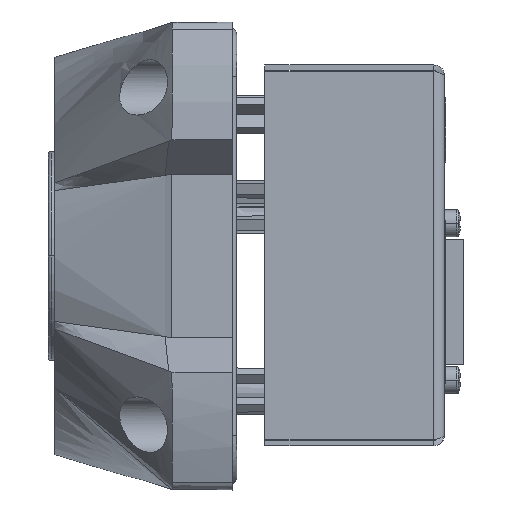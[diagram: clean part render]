
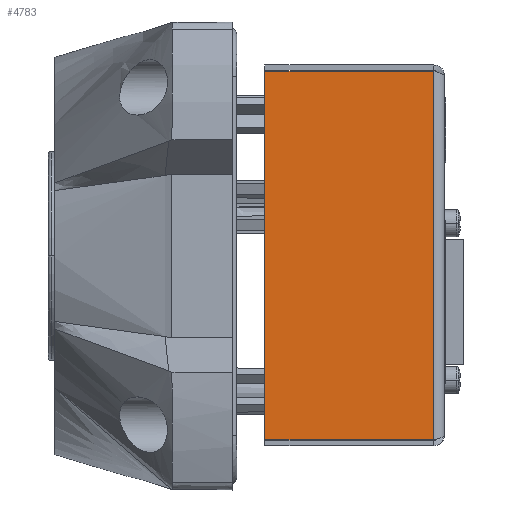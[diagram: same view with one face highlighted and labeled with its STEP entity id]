
A CAD part, left-side view. The second image highlights one B-rep face of the part: STEP entity #4783.
In plain terms, the highlighted planar face has unit normal (-1, 0, 0).
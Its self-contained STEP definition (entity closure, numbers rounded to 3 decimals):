
#148 = LINE ( 'NONE', #19914, #11269 ) ;
#416 = ORIENTED_EDGE ( 'NONE', *, *, #21659, .T. ) ;
#1772 = CARTESIAN_POINT ( 'NONE',  ( -39.75, -18.6, -33.755 ) ) ;
#1985 = VERTEX_POINT ( 'NONE', #5362 ) ;
#3797 = VECTOR ( 'NONE', #11076, 1000. ) ;
#4783 = ADVANCED_FACE ( 'NONE', ( #29949 ), #6434, .F. ) ;
#5090 = ORIENTED_EDGE ( 'NONE', *, *, #10970, .F. ) ;
#5362 = CARTESIAN_POINT ( 'NONE',  ( -39.75, -49.6, -33.755 ) ) ;
#5526 = LINE ( 'NONE', #25958, #19818 ) ;
#6434 = PLANE ( 'NONE',  #31175 ) ;
#8286 = DIRECTION ( 'NONE',  ( 0., 1., 0. ) ) ;
#8717 = ORIENTED_EDGE ( 'NONE', *, *, #23789, .F. ) ;
#9394 = CARTESIAN_POINT ( 'NONE',  ( -39.75, -51.6, 0.104 ) ) ;
#9930 = VERTEX_POINT ( 'NONE', #10803 ) ;
#10724 = CARTESIAN_POINT ( 'NONE',  ( -39.75, -49.6, 33.962 ) ) ;
#10803 = CARTESIAN_POINT ( 'NONE',  ( -39.75, -18.6, 33.962 ) ) ;
#10970 = EDGE_CURVE ( 'NONE', #1985, #13110, #5526, .T. ) ;
#11076 = DIRECTION ( 'NONE',  ( 0., 0., -1. ) ) ;
#11269 = VECTOR ( 'NONE', #8286, 1000. ) ;
#11698 = DIRECTION ( 'NONE',  ( 0., 1., 0. ) ) ;
#13110 = VERTEX_POINT ( 'NONE', #1772 ) ;
#13703 = VECTOR ( 'NONE', #24493, 1000. ) ;
#15395 = DIRECTION ( 'NONE',  ( 1., 0., 0. ) ) ;
#15990 = CARTESIAN_POINT ( 'NONE',  ( -39.75, -18.6, -34.896 ) ) ;
#18966 = LINE ( 'NONE', #31095, #3797 ) ;
#19818 = VECTOR ( 'NONE', #11698, 1000. ) ;
#19914 = CARTESIAN_POINT ( 'NONE',  ( -39.75, -51.6, 33.962 ) ) ;
#20642 = VERTEX_POINT ( 'NONE', #10724 ) ;
#21659 = EDGE_CURVE ( 'NONE', #20642, #9930, #148, .T. ) ;
#23789 = EDGE_CURVE ( 'NONE', #20642, #1985, #18966, .T. ) ;
#24493 = DIRECTION ( 'NONE',  ( 0., 0., 1. ) ) ;
#25958 = CARTESIAN_POINT ( 'NONE',  ( -39.75, -50.6, -33.755 ) ) ;
#26417 = DIRECTION ( 'NONE',  ( 0., -1., 0. ) ) ;
#29949 = FACE_OUTER_BOUND ( 'NONE', #35628, .T. ) ;
#31095 = CARTESIAN_POINT ( 'NONE',  ( -39.75, -49.6, -34.896 ) ) ;
#31175 = AXIS2_PLACEMENT_3D ( 'NONE', #9394, #15395, #26417 ) ;
#31618 = LINE ( 'NONE', #15990, #13703 ) ;
#32766 = ORIENTED_EDGE ( 'NONE', *, *, #36141, .F. ) ;
#35628 = EDGE_LOOP ( 'NONE', ( #8717, #416, #32766, #5090 ) ) ;
#36141 = EDGE_CURVE ( 'NONE', #13110, #9930, #31618, .T. ) ;
